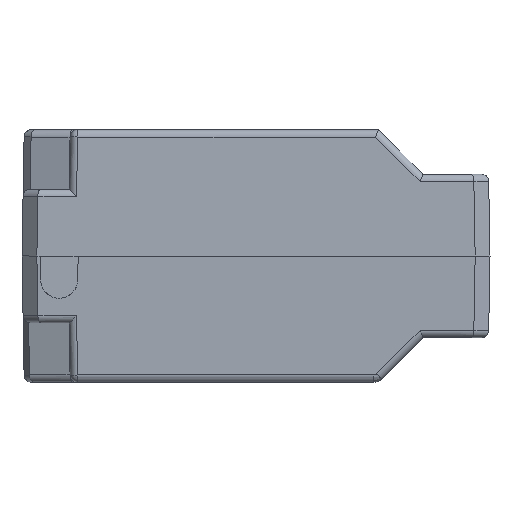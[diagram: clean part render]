
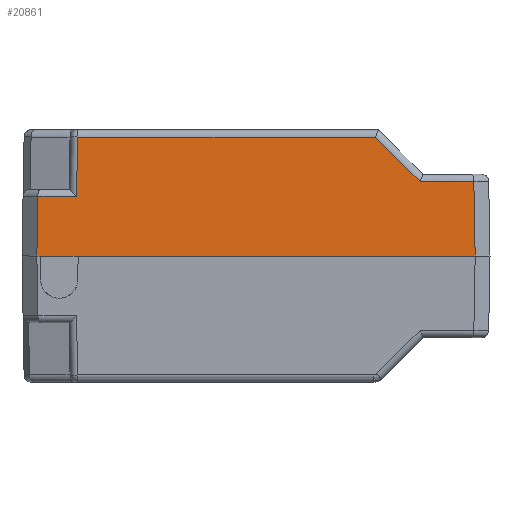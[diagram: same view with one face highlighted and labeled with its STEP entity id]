
A CAD part, left-side view. The second image highlights one B-rep face of the part: STEP entity #20861.
In plain terms, the highlighted planar face has unit normal (-1, 0, 0.018).
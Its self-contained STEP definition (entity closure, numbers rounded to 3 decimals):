
#529 = EDGE_CURVE ( 'NONE', #32654, #17238, #30241, .T. ) ;
#1571 = EDGE_CURVE ( 'NONE', #36350, #20046, #38102, .T. ) ;
#4256 = DIRECTION ( 'NONE',  ( 0.017, 0., 1. ) ) ;
#4264 = VECTOR ( 'NONE', #6149, 1000. ) ;
#5177 = LINE ( 'NONE', #38262, #47516 ) ;
#5296 = VECTOR ( 'NONE', #35032, 1000. ) ;
#6149 = DIRECTION ( 'NONE',  ( -0.017, 0.017, -1. ) ) ;
#6631 = LINE ( 'NONE', #35771, #5296 ) ;
#7188 = EDGE_CURVE ( 'NONE', #20046, #14996, #50771, .T. ) ;
#9099 = LINE ( 'NONE', #54637, #51429 ) ;
#9841 = CARTESIAN_POINT ( 'NONE',  ( -29.86, 60.86, 8.017 ) ) ;
#10224 = EDGE_CURVE ( 'NONE', #48017, #14996, #18167, .T. ) ;
#11260 = CARTESIAN_POINT ( 'NONE',  ( -30., 0., 0. ) ) ;
#12103 = ORIENTED_EDGE ( 'NONE', *, *, #34954, .T. ) ;
#12374 = CARTESIAN_POINT ( 'NONE',  ( -30., 55.444, 0. ) ) ;
#14642 = CARTESIAN_POINT ( 'NONE',  ( -29.981, 60.981, 1.064 ) ) ;
#14996 = VERTEX_POINT ( 'NONE', #54635 ) ;
#15256 = CARTESIAN_POINT ( 'NONE',  ( -29.995, -0.302, 0.302 ) ) ;
#15626 = VECTOR ( 'NONE', #52219, 1000. ) ;
#16970 = FACE_OUTER_BOUND ( 'NONE', #29477, .T. ) ;
#17056 = VECTOR ( 'NONE', #44649, 1000. ) ;
#17238 = VERTEX_POINT ( 'NONE', #51092 ) ;
#17393 = ORIENTED_EDGE ( 'NONE', *, *, #37548, .T. ) ;
#17867 = ORIENTED_EDGE ( 'NONE', *, *, #19691, .T. ) ;
#18167 = LINE ( 'NONE', #14642, #4264 ) ;
#18397 = CARTESIAN_POINT ( 'NONE',  ( -30., 0., 0. ) ) ;
#19691 = EDGE_CURVE ( 'NONE', #20407, #32654, #9099, .T. ) ;
#20046 = VERTEX_POINT ( 'NONE', #54386 ) ;
#20407 = VERTEX_POINT ( 'NONE', #32260 ) ;
#20471 = LINE ( 'NONE', #11260, #51521 ) ;
#20479 = ORIENTED_EDGE ( 'NONE', *, *, #1571, .F. ) ;
#20861 = ADVANCED_FACE ( 'NONE', ( #16970 ), #21081, .T. ) ;
#21081 = PLANE ( 'NONE',  #38444 ) ;
#23567 = DIRECTION ( 'NONE',  ( 0., 1., 0. ) ) ;
#24787 = LINE ( 'NONE', #44664, #34710 ) ;
#25620 = VERTEX_POINT ( 'NONE', #54177 ) ;
#26251 = VECTOR ( 'NONE', #51401, 1000. ) ;
#26773 = ORIENTED_EDGE ( 'NONE', *, *, #529, .T. ) ;
#29288 = DIRECTION ( 'NONE',  ( 0., 1., 0. ) ) ;
#29477 = EDGE_LOOP ( 'NONE', ( #31970, #46213, #20479, #32258, #17393, #45364, #44095, #17867, #26773, #12103 ) ) ;
#29577 = DIRECTION ( 'NONE',  ( -1., 0., 0.017 ) ) ;
#30153 = VECTOR ( 'NONE', #32247, 1000. ) ;
#30241 = LINE ( 'NONE', #38646, #26251 ) ;
#31467 = LINE ( 'NONE', #15256, #30153 ) ;
#31970 = ORIENTED_EDGE ( 'NONE', *, *, #10224, .T. ) ;
#32247 = DIRECTION ( 'NONE',  ( 0.012, 0.707, 0.707 ) ) ;
#32258 = ORIENTED_EDGE ( 'NONE', *, *, #47024, .F. ) ;
#32260 = CARTESIAN_POINT ( 'NONE',  ( -29.72, 15.414, 16.017 ) ) ;
#32346 = DIRECTION ( 'NONE',  ( 0., 1., 0. ) ) ;
#32654 = VERTEX_POINT ( 'NONE', #52050 ) ;
#32853 = CARTESIAN_POINT ( 'NONE',  ( -29.825, 9.414, 10.017 ) ) ;
#33286 = VERTEX_POINT ( 'NONE', #50276 ) ;
#34060 = EDGE_CURVE ( 'NONE', #38149, #20407, #31467, .T. ) ;
#34710 = VECTOR ( 'NONE', #23567, 1000. ) ;
#34954 = EDGE_CURVE ( 'NONE', #17238, #48017, #24787, .T. ) ;
#35032 = DIRECTION ( 'NONE',  ( 0., 1., 0. ) ) ;
#35771 = CARTESIAN_POINT ( 'NONE',  ( -29.825, 0., 10.017 ) ) ;
#36350 = VERTEX_POINT ( 'NONE', #12374 ) ;
#37548 = EDGE_CURVE ( 'NONE', #33286, #25620, #5177, .T. ) ;
#38102 = LINE ( 'NONE', #18397, #15626 ) ;
#38149 = VERTEX_POINT ( 'NONE', #32853 ) ;
#38262 = CARTESIAN_POINT ( 'NONE',  ( -30.001, 2., -0.035 ) ) ;
#38444 = AXIS2_PLACEMENT_3D ( 'NONE', #50656, #29577, #4256 ) ;
#38646 = CARTESIAN_POINT ( 'NONE',  ( -29.843, 55.64, 8.983 ) ) ;
#42515 = DIRECTION ( 'NONE',  ( 0.017, 0.017, 1. ) ) ;
#44095 = ORIENTED_EDGE ( 'NONE', *, *, #34060, .T. ) ;
#44649 = DIRECTION ( 'NONE',  ( 0., 1., 0. ) ) ;
#44664 = CARTESIAN_POINT ( 'NONE',  ( -29.86, 60.843, 8.017 ) ) ;
#45364 = ORIENTED_EDGE ( 'NONE', *, *, #46407, .T. ) ;
#46213 = ORIENTED_EDGE ( 'NONE', *, *, #7188, .F. ) ;
#46407 = EDGE_CURVE ( 'NONE', #25620, #38149, #6631, .T. ) ;
#47024 = EDGE_CURVE ( 'NONE', #33286, #36350, #20471, .T. ) ;
#47516 = VECTOR ( 'NONE', #42515, 1000. ) ;
#48017 = VERTEX_POINT ( 'NONE', #9841 ) ;
#48888 = CARTESIAN_POINT ( 'NONE',  ( -30., 0., 0. ) ) ;
#50276 = CARTESIAN_POINT ( 'NONE',  ( -30., 2., 0. ) ) ;
#50656 = CARTESIAN_POINT ( 'NONE',  ( -30., 0., 0. ) ) ;
#50771 = LINE ( 'NONE', #48888, #17056 ) ;
#51092 = CARTESIAN_POINT ( 'NONE',  ( -29.86, 55.657, 8.017 ) ) ;
#51401 = DIRECTION ( 'NONE',  ( -0.017, 0.017, -1. ) ) ;
#51429 = VECTOR ( 'NONE', #29288, 1000. ) ;
#51521 = VECTOR ( 'NONE', #32346, 1000. ) ;
#52050 = CARTESIAN_POINT ( 'NONE',  ( -29.72, 55.517, 16.017 ) ) ;
#52219 = DIRECTION ( 'NONE',  ( 0., 1., 0. ) ) ;
#54177 = CARTESIAN_POINT ( 'NONE',  ( -29.825, 2.175, 10.017 ) ) ;
#54386 = CARTESIAN_POINT ( 'NONE',  ( -30., 60.556, 0. ) ) ;
#54635 = CARTESIAN_POINT ( 'NONE',  ( -30., 61., 0. ) ) ;
#54637 = CARTESIAN_POINT ( 'NONE',  ( -29.72, 0., 16.017 ) ) ;
